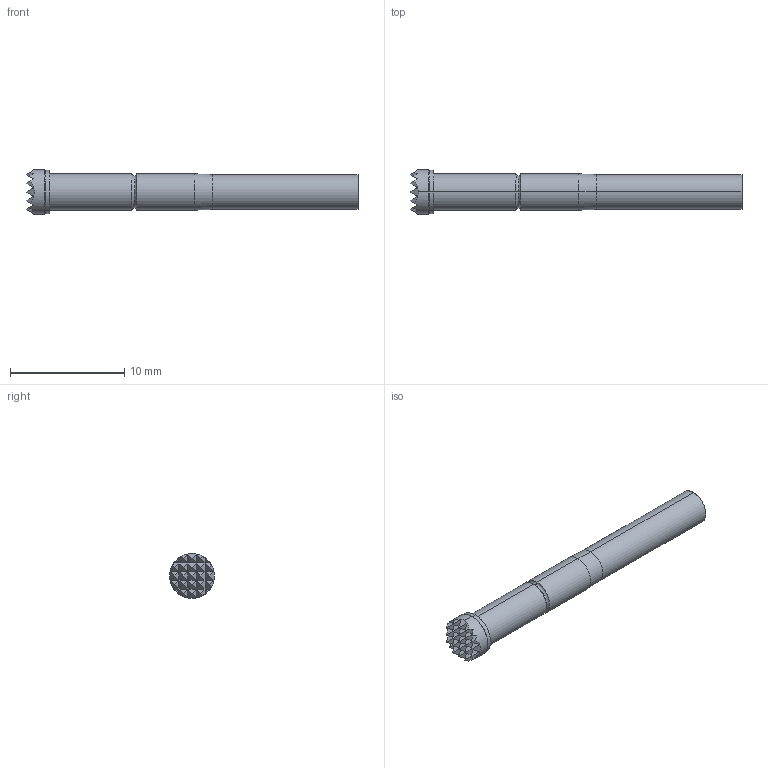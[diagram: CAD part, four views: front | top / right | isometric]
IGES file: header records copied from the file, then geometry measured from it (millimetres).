
Start section: SolidWorks IGES file using analytic representation for surfaces
Global section: file name: O:\PYLON\IGES FILES\P2550\P2550-6 FULL.IGS; native system: SolidWorks 2015; preprocessor: SolidWorks 2015; author: kgolden; date: 171020.113010; units: inch
Bounding box: 29.06 x 3.91 x 3.91 mm (x, y, z)
Surface area: 395.6 mm2 (no closed solid volume)
Topology: 0 solids, 0 shells, 112 faces, 726 edges, 724 vertices
Faces by surface type: bspline 96, revolution 16
